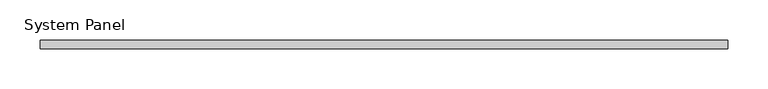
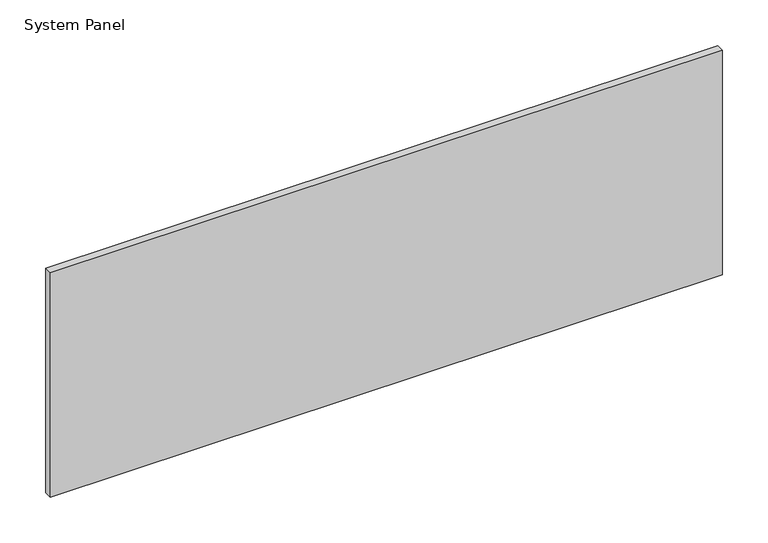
"""IFC4 building model written with IfcOpenShell, lengths in millimetres: plate geometry, System Panel : стекло_смещение_0."""

from ifc_helpers import new_model, si_unit, origin, origin_with_axes, place, context, project, spatial, polyline, outline, extrude, source, transform, mapped, element, save


def system_panel_ad2b706d(model_context):
    return source(origin(), model_context, "Body", "SweptSolid", [
        extrude(outline(polyline([(425.0, -5.0), (-425.0, -5.0), (-425.0, 5.0), (425.0, 5.0), (425.0, -5.0)])), origin_with_axes(), (0.0, 0.0, 1.0), 300.0),
    ])


if __name__ == "__main__":
    model = new_model("IFC4")
    model_context = context("Model", 3, world=origin())
    ifc_project = project(units=[si_unit("LENGTHUNIT", "METRE", prefix="MILLI")], contexts=[model_context])
    site = spatial("IfcSite", under=ifc_project)
    building = spatial("IfcBuilding", under=site)
    placement = place(None, origin())
    system_panel_shape = system_panel_ad2b706d(model_context)
    element("IfcPlate", 1, ObjectType="System Panel : стекло_смещение_0", at=placement, inside=building, context=model_context, shape_type="MappedRepresentation", body=[
        mapped(system_panel_shape, transform((0.0, 0.0, 0.0), x_axis=(1.0, 0.0, 0.0), y_axis=(0.0, 1.0, 0.0), z_axis=(0.0, 0.0, 1.0))),
    ])
    save(model, "model.ifc")
